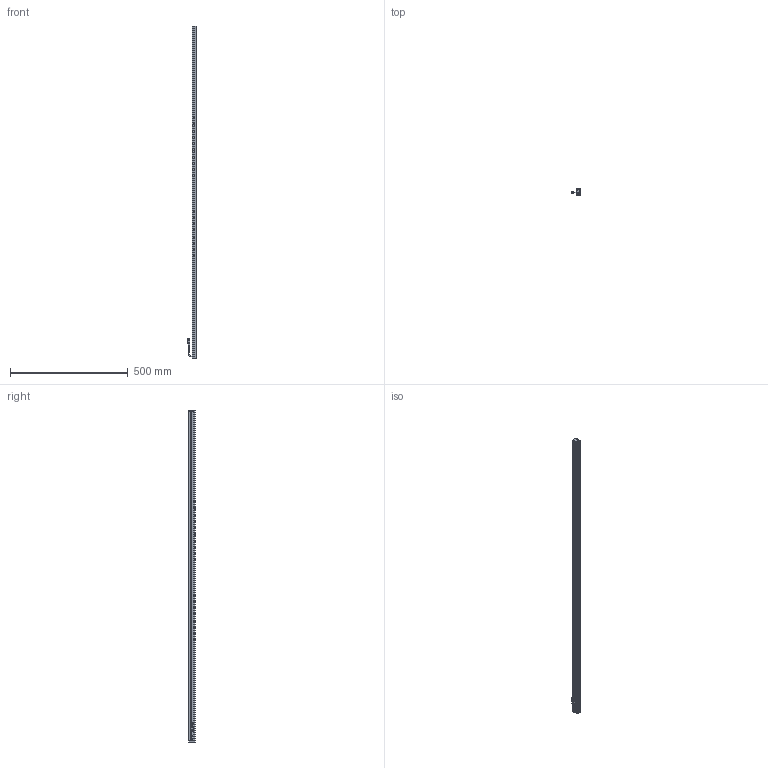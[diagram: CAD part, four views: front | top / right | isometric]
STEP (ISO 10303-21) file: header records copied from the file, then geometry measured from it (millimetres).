
FILE_DESCRIPTION (( 'STEP AP203' ), '1' );
FILE_NAME ('CK-BL140718.STEP', '2025-12-27T01:35:56', ( '' ), ( '' ), 'SwSTEP 2.0', 'SolidWorks 2022', '' );
FILE_SCHEMA (( 'CONFIG_CONTROL_DESIGN' ));
Length unit declared in the file: millimetre
Products named in the file (6): CK-BL140718-002A; CK-BL140718-003A; 十字沉头螺丝 M2x10; 光源线-01; CK-BL140718-001A; CK-BL140718
Assembly tree (9 placements, depth 2):
  CK-BL140718
    CK-BL140718-001A
    CK-BL140718-002A  x2
    CK-BL140718-003A
    光源线-01
    十字沉头螺丝 M2x10  x4
Bounding box: 37.34 x 27 x 1407 mm (x, y, z)
Volume: 309164.6 mm3; surface area: 305301.4 mm2
Topology: 11 solids, 11 shells, 474 faces, 1231 edges, 780 vertices
Faces by surface type: plane 271, cylinder 149, cone 34, bspline 20
Entity records: 12442 total; most frequent: CARTESIAN_POINT 2514, ORIENTED_EDGE 1936, DIRECTION 1916, EDGE_CURVE 968, VECTOR 668, LINE 668, VERTEX_POINT 626, AXIS2_PLACEMENT_3D 624
